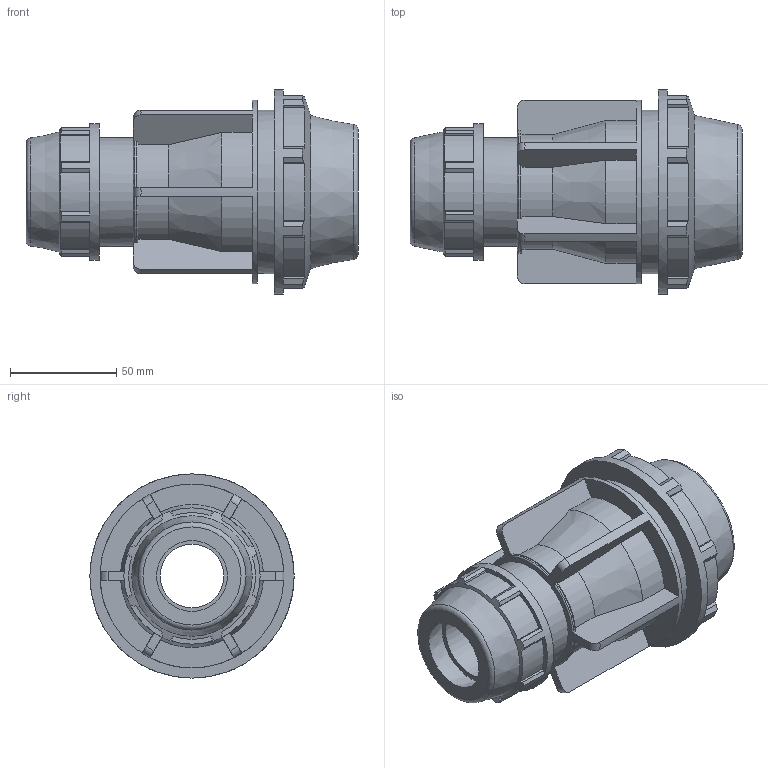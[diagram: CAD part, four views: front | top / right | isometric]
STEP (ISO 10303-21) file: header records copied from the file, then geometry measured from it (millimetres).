
FILE_DESCRIPTION(/* description */ ('PLASSON REDUCING COUPLER 1 1/2'''' - 3/4'''''),/* implementation_level */ '2;1');
FILE_NAME(/* name */ 'C:\Dropbox\KIMPROJECTS-Inventor 2019\99-16-3568-Processing Inch\ASTM Compression 2021\0711M0\0711M0015010.ipt.stp',/* time_stamp */ '2021-08-26T12:32:53+03:00',/* author */ ('KIM'),/* organization */ (''),/* preprocessor_version */ 'ST-DEVELOPER v17.2',/* originating_system */ 'Autodesk Inventor 2019',/* authorisation */ '');
FILE_SCHEMA (('AUTOMOTIVE_DESIGN { 1 0 10303 214 3 1 1 }'));
Length unit declared in the file: inch
Products named in the file (1): 0711M0015010
Bounding box: 156 x 96.01 x 96.01 mm (x, y, z)
Volume: 337057.6 mm3; surface area: 75697.7 mm2
Topology: 1 solids, 1 shells, 213 faces, 633 edges, 430 vertices
Faces by surface type: plane 138, cylinder 47, cone 14, torus 14
Full cylindrical faces by diameter (mm): 33.3 x1, 48.1 x1, 51.206 x1, 64.008 x1, 76.81 x1, 86.411 x1, 96.012 x1
Entity records: 7627 total; most frequent: CARTESIAN_POINT 1617, ORIENTED_EDGE 1266, DIRECTION 1177, EDGE_CURVE 633, VERTEX_POINT 430, AXIS2_PLACEMENT_3D 410, LINE 357, VECTOR 357
